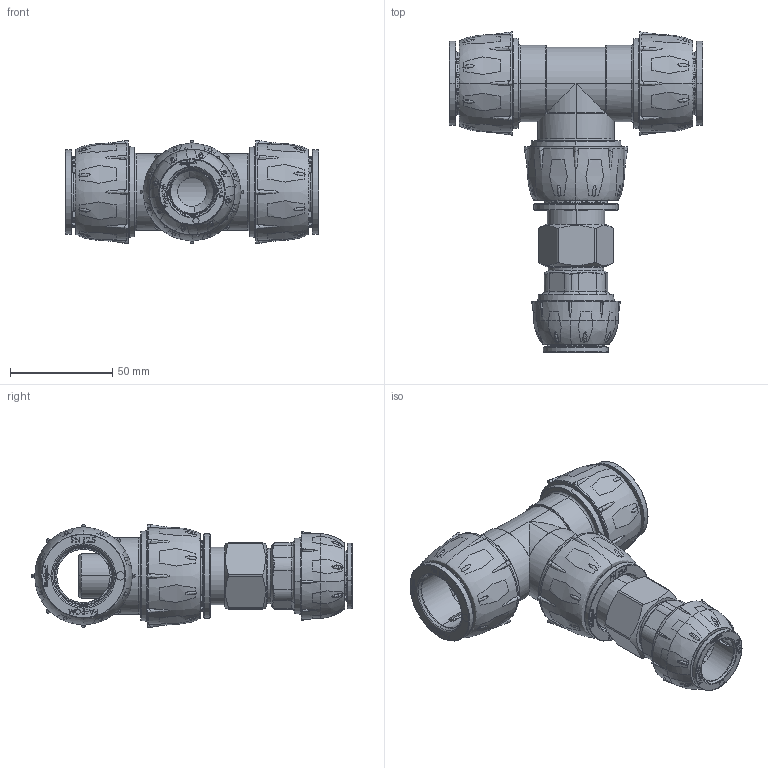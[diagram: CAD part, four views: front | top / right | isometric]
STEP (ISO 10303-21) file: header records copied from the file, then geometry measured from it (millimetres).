
FILE_DESCRIPTION (( 'STEP AP214' ), '1' );
FILE_NAME ('R247.028.022.STEP', '2019-10-24T15:03:26', ( '' ), ( '' ), 'SwSTEP 2.0', 'SolidWorks 2018', '' );
FILE_SCHEMA (( 'AUTOMOTIVE_DESIGN' ));
Length unit declared in the file: millimetre
Products named in the file (16): R209.022.003; R214.028.000; R2016.028.000; R211.022.012-L; R209.028.002; R209.028.001; R247.028.022; OR_21.5x2.5; R209.022.002; R211.022.012; R209.022.001; R237.028.012; OR_27.4x2.7; R216.022.000; R214.028.000-L; R209.028.003
Assembly tree (25 placements, depth 3):
  R247.028.022
    R214.028.000
      R214.028.000-L
      OR_27.4x2.7  x3
      R209.028.001  x3
      R209.028.002  x3
      R209.028.003  x3
      R2016.028.000  x3
    R237.028.012
    R211.022.012
      R211.022.012-L
      R209.022.001
      R209.022.002
      R209.022.003
      OR_21.5x2.5
      R216.022.000
Bounding box: 123.7 x 156.48 x 50.59 mm (x, y, z)
Volume: 168982.2 mm3; surface area: 123993.7 mm2
Topology: 23 solids, 47 shells, 3789 faces, 10377 edges, 6762 vertices
Faces by surface type: bspline 1419, plane 978, cylinder 719, torus 364, cone 269, sphere 40
Entity records: 116745 total; most frequent: CARTESIAN_POINT 69208, ORIENTED_EDGE 11526, DIRECTION 7285, EDGE_CURVE 5763, VERTEX_POINT 3824, AXIS2_PLACEMENT_3D 2790, B_SPLINE_CURVE_WITH_KNOTS 2622, EDGE_LOOP 2221
